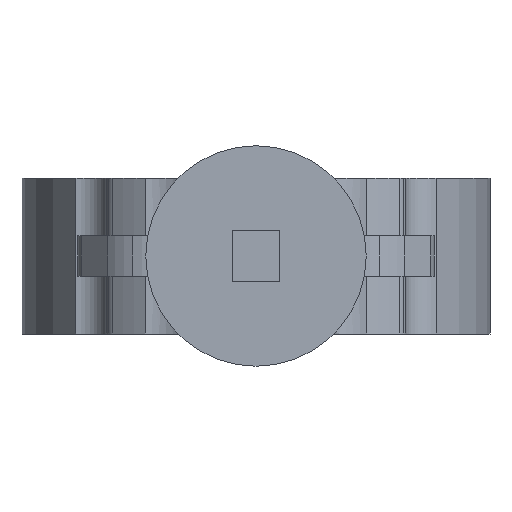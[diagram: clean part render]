
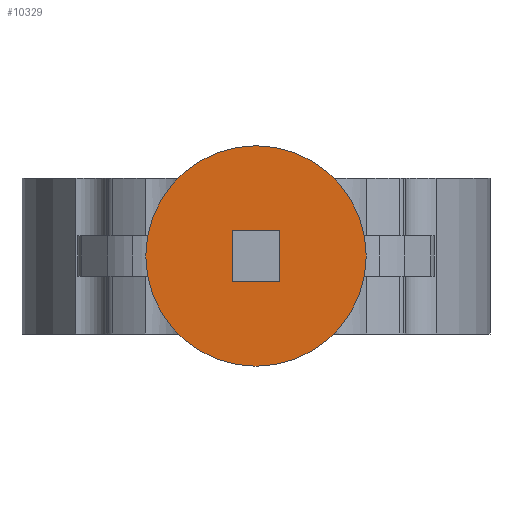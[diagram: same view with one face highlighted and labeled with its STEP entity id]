
A CAD part, front view. The second image highlights one B-rep face of the part: STEP entity #10329.
In plain terms, the highlighted planar face has unit normal (0, -1, 0).
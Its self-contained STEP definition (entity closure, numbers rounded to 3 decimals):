
#10241=CARTESIAN_POINT('',(32.5,-157.,23.));
#10242=VERTEX_POINT('',#10241);
#10258=CARTESIAN_POINT('',(-32.5,-157.,23.));
#10259=VERTEX_POINT('',#10258);
#10266=CARTESIAN_POINT('',(0.0,-157.,23.));
#10267=DIRECTION('',(0.0,1.0,0.0));
#10268=DIRECTION('',(-1.0,0.0,0.0));
#10269=AXIS2_PLACEMENT_3D('',#10266,#10267,#10268);
#10270=CIRCLE('',#10269,32.5);
#10271=EDGE_CURVE('',#10259,#10242,#10270,.T.);
#10298=CARTESIAN_POINT('',(0.0,-157.,-9.5));
#10299=VERTEX_POINT('',#10298);
#10300=CARTESIAN_POINT('',(0.0,-157.,23.));
#10301=DIRECTION('',(0.0,1.0,0.0));
#10302=DIRECTION('',(-1.0,0.0,0.0));
#10303=AXIS2_PLACEMENT_3D('',#10300,#10301,#10302);
#10304=CIRCLE('',#10303,32.5);
#10305=EDGE_CURVE('',#10242,#10299,#10304,.T.);
#10307=CARTESIAN_POINT('',(0.0,-157.,23.));
#10308=DIRECTION('',(0.0,1.0,0.0));
#10309=DIRECTION('',(-1.0,0.0,0.0));
#10310=AXIS2_PLACEMENT_3D('',#10307,#10308,#10309);
#10311=CIRCLE('',#10310,32.5);
#10312=EDGE_CURVE('',#10299,#10259,#10311,.T.);
#10319=CARTESIAN_POINT('',(3.11,-157.,23.));
#10320=DIRECTION('',(0.0,-1.0,0.0));
#10321=DIRECTION('',(0.0,0.0,-1.0));
#10322=AXIS2_PLACEMENT_3D('',#10319,#10320,#10321);
#10323=PLANE('',#10322);
#10324=ORIENTED_EDGE('',*,*,#10312,.F.);
#10325=ORIENTED_EDGE('',*,*,#10305,.F.);
#10326=ORIENTED_EDGE('',*,*,#10271,.F.);
#10327=EDGE_LOOP('',(#10324,#10325,#10326));
#10328=FACE_OUTER_BOUND('',#10327,.T.);
#10329=ADVANCED_FACE('',(#10328),#10323,.T.);
